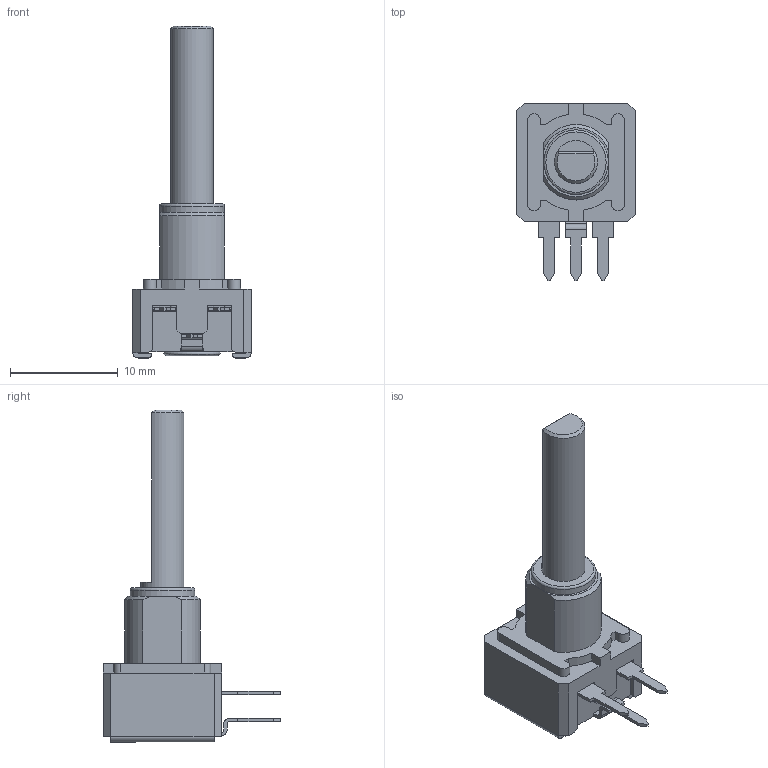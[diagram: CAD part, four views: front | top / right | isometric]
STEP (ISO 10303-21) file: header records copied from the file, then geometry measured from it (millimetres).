
FILE_DESCRIPTION(/* description */ (''),/* implementation_level */ '2;1');
FILE_NAME(/* name */ 'C:\Users\CEM\Desktop\ENVIAR\TRANSICION 3D CATALOGOS\MCA9DH2,5 WT-9020-NE.stp',/* time_stamp */ '2025-11-20T10:54:51+01:00',/* author */ ('CEM'),/* organization */ (''),/* preprocessor_version */ 'ST-DEVELOPER v16.13',/* originating_system */ 'Autodesk Inventor 2018',/* authorisation */ '');
FILE_SCHEMA (('AUTOMOTIVE_DESIGN { 1 0 10303 214 3 1 1 }'));
Length unit declared in the file: millimetre
Products named in the file (1): MCA9DH2,5 WT-9020-NE
Bounding box: 11 x 16.5 x 30.8 mm (x, y, z)
Volume: 936.4 mm3; surface area: 2040 mm2
Topology: 1 solids, 2 shells, 735 faces, 2068 edges, 1317 vertices
Faces by surface type: plane 572, cylinder 117, torus 24, cone 22
Full cylindrical faces by diameter (mm): 2.8 x1, 3 x1, 3.1 x1, 4 x3, 4.15 x1, 4.7 x1, 4.8 x1, 5 x1, 6 x1
Entity records: 24117 total; most frequent: CARTESIAN_POINT 4266, ORIENTED_EDGE 4086, DIRECTION 3840, EDGE_CURVE 2039, LINE 1626, VECTOR 1626, VERTEX_POINT 1309, AXIS2_PLACEMENT_3D 1107
